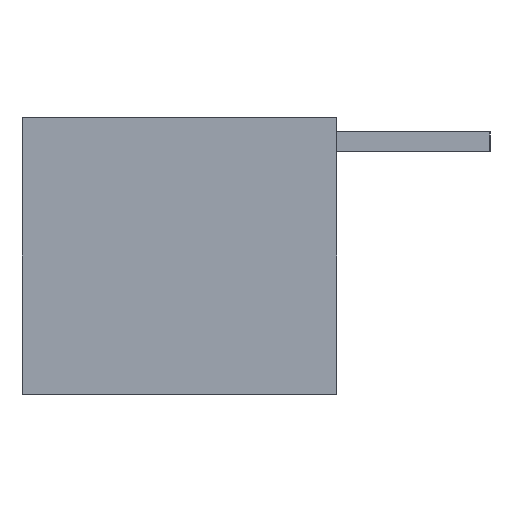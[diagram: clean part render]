
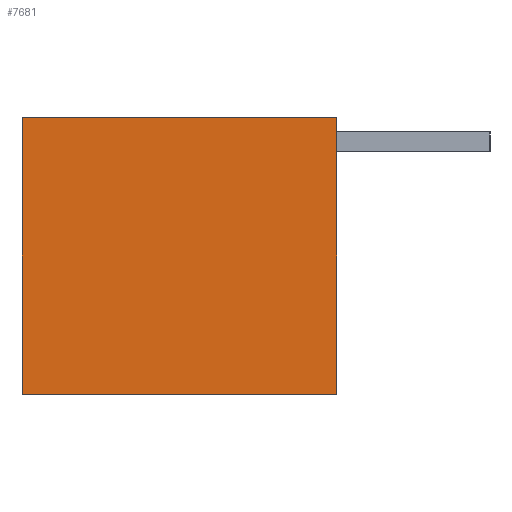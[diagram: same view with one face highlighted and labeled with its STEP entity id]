
A CAD part, left-side view. The second image highlights one B-rep face of the part: STEP entity #7681.
In plain terms, the highlighted planar face has unit normal (-1, 0, 0).
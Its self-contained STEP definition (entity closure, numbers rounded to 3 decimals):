
#44 = DIRECTION ( 'NONE',  ( 0., 0., -1. ) ) ;
#489 = CARTESIAN_POINT ( 'NONE',  ( 0., 0., -19.5 ) ) ;
#492 = DIRECTION ( 'NONE',  ( 1., 0., 0. ) ) ;
#512 = EDGE_CURVE ( 'NONE', #5545, #6821, #5615, .T. ) ;
#581 = DIRECTION ( 'NONE',  ( 0., 0., -1. ) ) ;
#602 = PLANE ( 'NONE',  #6052 ) ;
#901 = EDGE_CURVE ( 'NONE', #6821, #4764, #4639, .T. ) ;
#1483 = ORIENTED_EDGE ( 'NONE', *, *, #901, .F. ) ;
#1525 = ORIENTED_EDGE ( 'NONE', *, *, #4754, .F. ) ;
#2042 = EDGE_CURVE ( 'NONE', #4764, #3411, #6358, .T. ) ;
#2240 = FACE_OUTER_BOUND ( 'NONE', #4858, .T. ) ;
#2286 = CARTESIAN_POINT ( 'NONE',  ( 0., 22.2, 0. ) ) ;
#3000 = VECTOR ( 'NONE', #7340, 1000. ) ;
#3411 = VERTEX_POINT ( 'NONE', #7158 ) ;
#3751 = VECTOR ( 'NONE', #44, 1000. ) ;
#3958 = VECTOR ( 'NONE', #7217, 1000. ) ;
#4639 = LINE ( 'NONE', #2286, #3000 ) ;
#4754 = EDGE_CURVE ( 'NONE', #3411, #5545, #6527, .T. ) ;
#4764 = VERTEX_POINT ( 'NONE', #7102 ) ;
#4858 = EDGE_LOOP ( 'NONE', ( #1525, #5537, #1483, #6793 ) ) ;
#5197 = VECTOR ( 'NONE', #5256, 1000. ) ;
#5256 = DIRECTION ( 'NONE',  ( 0., 1., 0. ) ) ;
#5477 = CARTESIAN_POINT ( 'NONE',  ( 0., 0., 0. ) ) ;
#5537 = ORIENTED_EDGE ( 'NONE', *, *, #2042, .F. ) ;
#5545 = VERTEX_POINT ( 'NONE', #6036 ) ;
#5615 = LINE ( 'NONE', #6637, #3958 ) ;
#5988 = CARTESIAN_POINT ( 'NONE',  ( 0., 0., -19.5 ) ) ;
#6036 = CARTESIAN_POINT ( 'NONE',  ( 0., 22.2, -19.5 ) ) ;
#6052 = AXIS2_PLACEMENT_3D ( 'NONE', #5477, #492, #581 ) ;
#6358 = LINE ( 'NONE', #489, #3751 ) ;
#6527 = LINE ( 'NONE', #5988, #5197 ) ;
#6637 = CARTESIAN_POINT ( 'NONE',  ( 0., 22.2, -19.5 ) ) ;
#6793 = ORIENTED_EDGE ( 'NONE', *, *, #512, .F. ) ;
#6821 = VERTEX_POINT ( 'NONE', #7618 ) ;
#7102 = CARTESIAN_POINT ( 'NONE',  ( 0., 0., 0. ) ) ;
#7158 = CARTESIAN_POINT ( 'NONE',  ( 0., 0., -19.5 ) ) ;
#7217 = DIRECTION ( 'NONE',  ( 0., 0., 1. ) ) ;
#7340 = DIRECTION ( 'NONE',  ( 0., -1., 0. ) ) ;
#7618 = CARTESIAN_POINT ( 'NONE',  ( 0., 22.2, 0. ) ) ;
#7681 = ADVANCED_FACE ( 'NONE', ( #2240 ), #602, .F. ) ;
